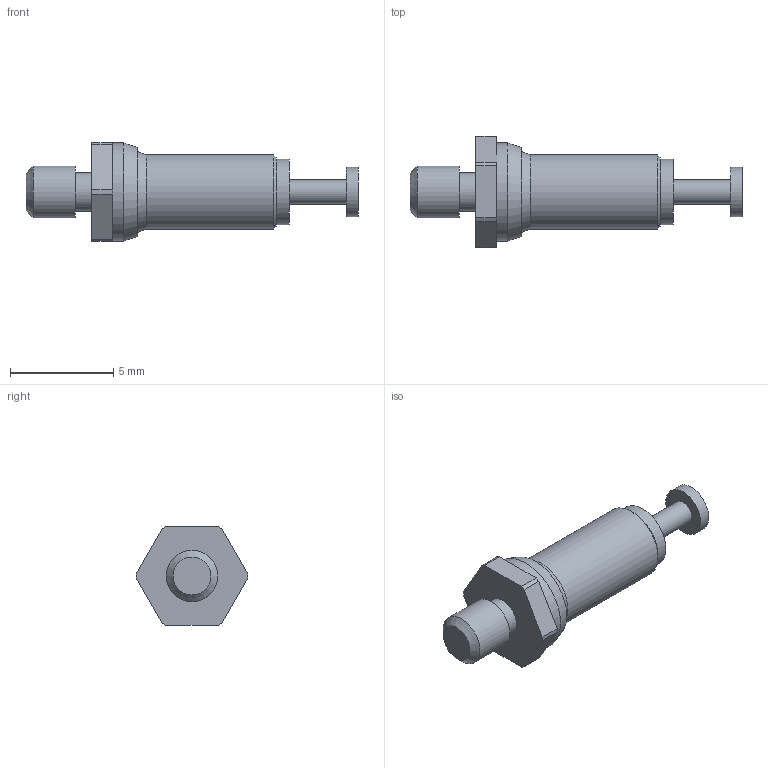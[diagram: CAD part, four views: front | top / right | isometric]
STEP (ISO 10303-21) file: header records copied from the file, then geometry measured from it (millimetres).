
FILE_DESCRIPTION(/* description */ (''),/* implementation_level */ '2;1');
FILE_NAME(/* name */ '\\Snap1\dwgs\Customer 3D Models\570\570-1992-02 Customer model.stp',/* time_stamp */ '2017-01-03T14:46:28+00:00',/* author */ ('paulk'),/* organization */ (''),/* preprocessor_version */ 'ST-DEVELOPER v15.2',/* originating_system */ 'Autodesk Inventor 2014',/* authorisation */ '');
FILE_SCHEMA (('CONFIG_CONTROL_DESIGN'));
Length unit declared in the file: millimetre
Products named in the file (1): 570-1992-02 Customer model
Bounding box: 16.08 x 5.4 x 4.78 mm (x, y, z)
Volume: 133.2 mm3; surface area: 199.4 mm2
Topology: 1 solids, 1 shells, 32 faces, 66 edges, 42 vertices
Faces by surface type: plane 14, cylinder 13, cone 5
Full cylindrical faces by diameter (mm): 1.168 x1, 1.854 x1, 2.388 x1, 2.515 x1, 3.175 x1, 3.607 x1, 4.75 x1
Entity records: 866 total; most frequent: DIRECTION 150, CARTESIAN_POINT 129, ORIENTED_EDGE 108, AXIS2_PLACEMENT_3D 63, EDGE_CURVE 54, EDGE_LOOP 50, VERTEX_POINT 42, STYLED_ITEM 33
